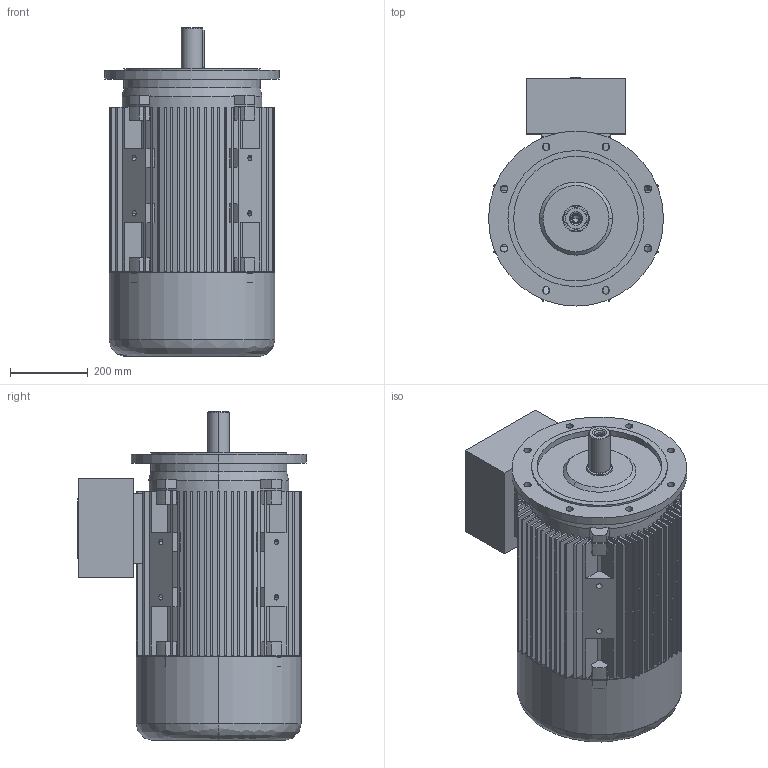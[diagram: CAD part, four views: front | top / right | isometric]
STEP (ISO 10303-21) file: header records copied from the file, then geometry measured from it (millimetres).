
FILE_DESCRIPTION (( 'STEP AP203' ), '1' );
FILE_NAME ('20.18425_B 7AT 225S&M -2 B5 STANDK.STEP', '2018-04-24T11:54:43', ( '' ), ( '' ), 'SwSTEP 2.0', 'SolidWorks 2017', '' );
FILE_SCHEMA (( 'CONFIG_CONTROL_DESIGN' ));
Length unit declared in the file: millimetre
Products named in the file (1): 20.18425_B 7AT 225S&M -2 B5 STANDK
Bounding box: 450 x 587 x 845 mm (x, y, z)
Volume: 35496146 mm3; surface area: 5126231.6 mm2
Topology: 5 solids, 5 shells, 803 faces, 2153 edges, 1413 vertices
Faces by surface type: plane 622, cylinder 130, cone 38, bspline 13
Entity records: 25663 total; most frequent: CARTESIAN_POINT 5189, ORIENTED_EDGE 4270, DIRECTION 4187, EDGE_CURVE 2135, LINE 1581, VECTOR 1581, VERTEX_POINT 1413, AXIS2_PLACEMENT_3D 1303
